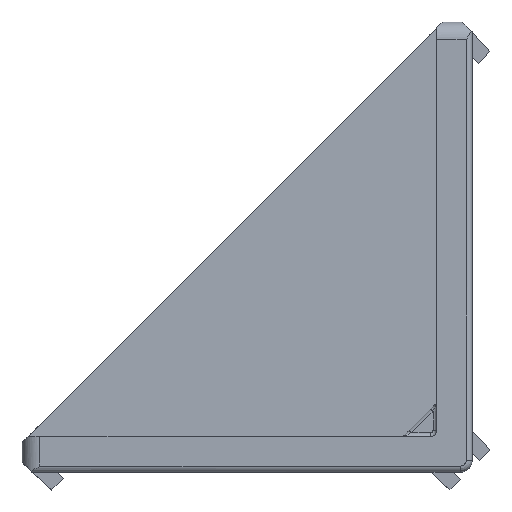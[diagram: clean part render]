
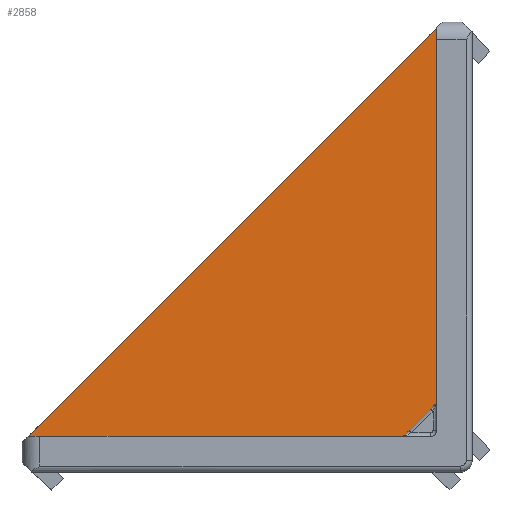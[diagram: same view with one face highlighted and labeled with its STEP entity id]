
A CAD part, top view. The second image highlights one B-rep face of the part: STEP entity #2858.
In plain terms, the highlighted planar face has unit normal (-0.012, 0.012, 1).
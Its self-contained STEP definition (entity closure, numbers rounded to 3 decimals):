
#118=PLANE('',#3086);
#206=FACE_OUTER_BOUND('',#376,.T.);
#376=EDGE_LOOP('',(#2125,#2126,#2127,#2128));
#559=ELLIPSE('',#3087,0.5,0.5);
#661=LINE('',#4159,#933);
#671=LINE('',#4201,#943);
#702=LINE('',#4294,#974);
#933=VECTOR('',#3334,10.);
#943=VECTOR('',#3366,10.);
#974=VECTOR('',#3431,10.);
#1239=VERTEX_POINT('',#4156);
#1240=VERTEX_POINT('',#4158);
#1255=VERTEX_POINT('',#4200);
#1291=VERTEX_POINT('',#4292);
#1514=EDGE_CURVE('',#1239,#1240,#661,.T.);
#1533=EDGE_CURVE('',#1255,#1240,#671,.T.);
#1576=EDGE_CURVE('',#1291,#1239,#702,.F.);
#1657=EDGE_CURVE('',#1255,#1291,#559,.F.);
#2125=ORIENTED_EDGE('',*,*,#1576,.F.);
#2126=ORIENTED_EDGE('',*,*,#1657,.F.);
#2127=ORIENTED_EDGE('',*,*,#1533,.T.);
#2128=ORIENTED_EDGE('',*,*,#1514,.F.);
#2858=ADVANCED_FACE('',(#206),#118,.T.);
#3086=AXIS2_PLACEMENT_3D('',#4719,#3523,#3524);
#3087=AXIS2_PLACEMENT_3D('',#4720,#3525,#3526);
#3334=DIRECTION('',(0.707,0.707,0.));
#3366=DIRECTION('',(0.,1.,-0.012));
#3431=DIRECTION('',(1.,0.,0.012));
#3523=DIRECTION('center_axis',(-0.012,0.012,1.));
#3524=DIRECTION('ref_axis',(1.,0.,0.012));
#3525=DIRECTION('center_axis',(-0.012,0.012,1.));
#3526=DIRECTION('ref_axis',(-0.707,0.707,-0.017));
#4156=CARTESIAN_POINT('',(-37.5,3.,-6.5));
#4158=CARTESIAN_POINT('',(-3.,37.5,-6.5));
#4159=CARTESIAN_POINT('',(-38.,2.5,-6.5));
#4200=CARTESIAN_POINT('',(-3.,3.5,-6.08));
#4201=CARTESIAN_POINT('',(-3.,21.553,-6.303));
#4292=CARTESIAN_POINT('',(-3.5,3.,-6.08));
#4294=CARTESIAN_POINT('',(-20.837,3.,-6.294));
#4719=CARTESIAN_POINT('Origin',(-37.994,2.494,-6.5));
#4720=CARTESIAN_POINT('Origin',(-3.5,3.5,-6.087));
